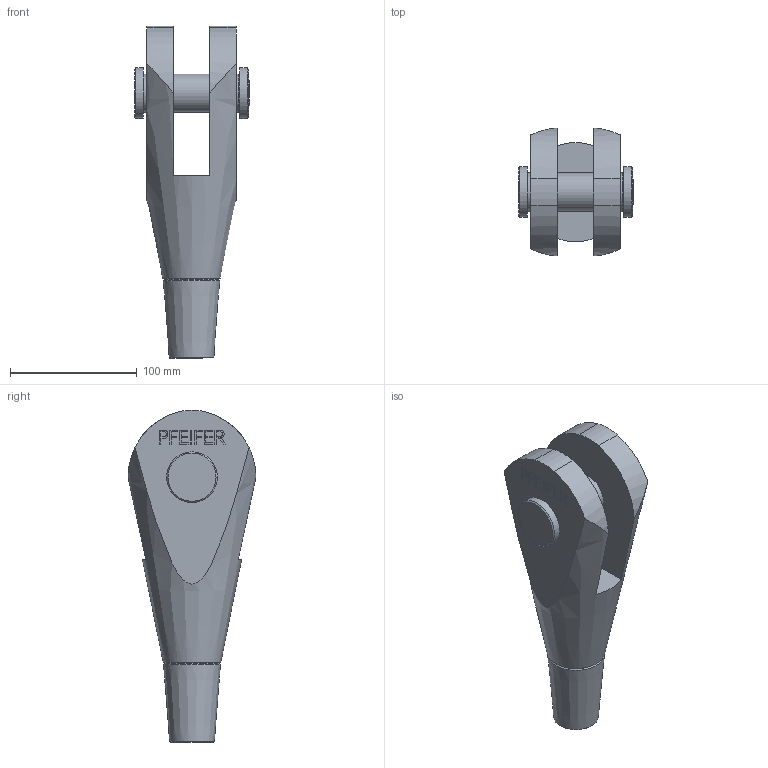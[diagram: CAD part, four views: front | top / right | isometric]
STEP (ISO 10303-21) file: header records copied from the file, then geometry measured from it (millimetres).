
FILE_DESCRIPTION(/* description */ (''),/* implementation_level */ '2;1');
FILE_NAME(/* name */ 'C:\Vault_WS\Designs\520-030-GAK.stp',/* time_stamp */ '2020-06-25T07:54:24+02:00',/* author */ ('schwarz'),/* organization */ (''),/* preprocessor_version */ 'ST-DEVELOPER v16.1',/* originating_system */ 'Autodesk Inventor 2016',/* authorisation */ '');
FILE_SCHEMA (('AUTOMOTIVE_DESIGN { 1 0 10303 214 3 1 1 }'));
Length unit declared in the file: centimetre
Products named in the file (1): 520-030-GAK-KMU-Kunde
Bounding box: 90.75 x 100.87 x 262 mm (x, y, z)
Volume: 703146.3 mm3; surface area: 95434 mm2
Topology: 2 solids, 3 shells, 186 faces, 482 edges, 319 vertices
Faces by surface type: plane 136, bspline 21, cylinder 16, cone 13
Full cylindrical faces by diameter (mm): 8.376 x1, 10 x1, 11 x1, 19.22 x1, 30 x1, 31.5 x1, 33 x2, 40 x2
Entity records: 5768 total; most frequent: CARTESIAN_POINT 1272, ORIENTED_EDGE 900, DIRECTION 768, EDGE_CURVE 450, LINE 348, VECTOR 348, VERTEX_POINT 310, EDGE_LOOP 230
